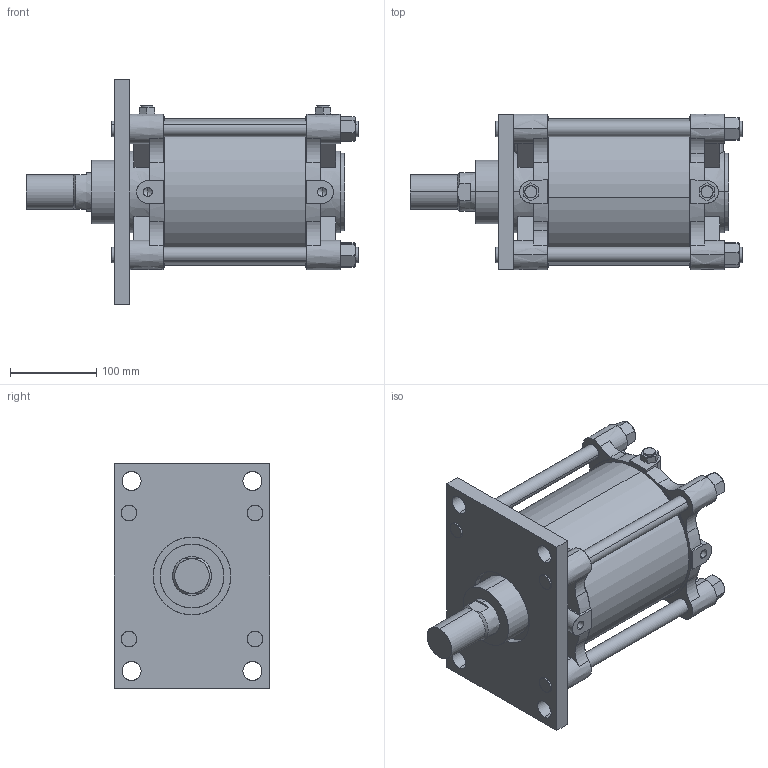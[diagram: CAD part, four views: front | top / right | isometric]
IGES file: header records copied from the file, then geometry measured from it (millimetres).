
Start section: SolidWorks IGES file using analytic representation for surfaces
Global section: file name: C:\Users\Toshiba\Desktop\A##2-160#-100-A.IGS; native system: SolidWorks 2014; preprocessor: SolidWorks 2014; author: Toshiba; date: 160331.145450; units: millimetre
Bounding box: 384.5 x 180 x 260 mm (x, y, z)
Surface area: 558775.8 mm2 (no closed solid volume)
Topology: 0 solids, 0 shells, 344 faces, 6758 edges, 6746 vertices
Faces by surface type: bspline 196, revolution 148
